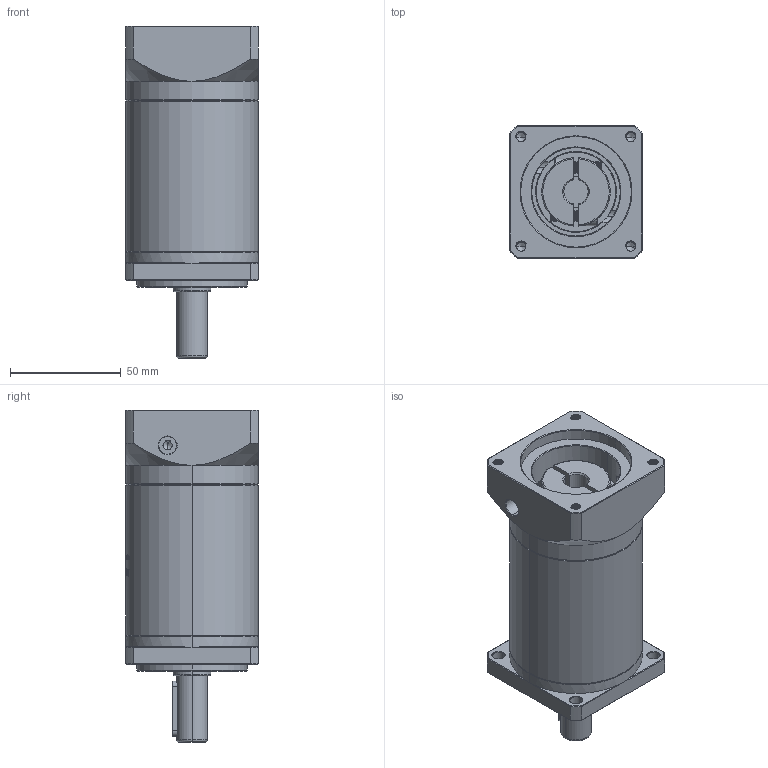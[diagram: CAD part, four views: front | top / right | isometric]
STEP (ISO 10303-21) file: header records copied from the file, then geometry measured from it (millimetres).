
FILE_DESCRIPTION (( 'STEP AP214' ), '1' );
FILE_NAME ('ZF060-D14-L3-P2-11-50-70-M5.step', '2023-08-16T04:24:23', ( '' ), ( '' ), 'SwSTEP 2.0', 'SolidWorks 2016', '' );
FILE_SCHEMA (( 'AUTOMOTIVE_DESIGN' ));
Length unit declared in the file: millimetre
Products named in the file (1): ZF060-D14-L3-P2-11-50-70-M5
Bounding box: 60 x 60 x 150 mm (x, y, z)
Volume: 320168.8 mm3; surface area: 50749.5 mm2
Topology: 6 solids, 6 shells, 1766 faces, 4784 edges, 3101 vertices
Faces by surface type: plane 794, cylinder 364, bspline 354, cone 234, torus 20
Entity records: 101460 total; most frequent: CARTESIAN_POINT 41855, ORIENTED_EDGE 9540, DIRECTION 6827, EDGE_CURVE 4770, VERTEX_POINT 3101, LINE 2427, VECTOR 2427, AXIS2_PLACEMENT_3D 2200
